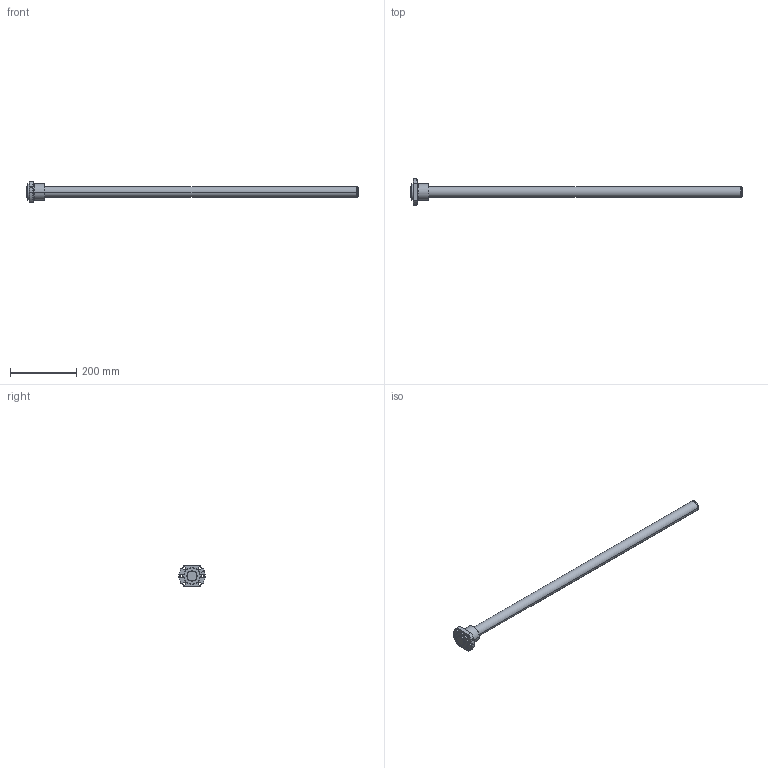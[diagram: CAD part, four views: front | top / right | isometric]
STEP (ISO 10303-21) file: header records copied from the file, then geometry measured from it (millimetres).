
FILE_DESCRIPTION( ( '' ), '1' );
FILE_NAME( 'C:/Users/v3-771-32344/Desktop/EBB STEP/EBB 3205-3 RRNone+1000L C7(938070)-ebb3.stp', '2015-08-27T13:37:50', ( '' ), ( '' ), ' ', ' ', ' ' );
FILE_SCHEMA( ( 'CONFIG_CONTROL_DESIGN' ) );
Length unit declared in the file: millimetre
Products named in the file (2): 1; 2
Bounding box: 1000 x 80 x 62 mm (x, y, z)
Volume: 887373.5 mm3; surface area: 126365.3 mm2
Topology: 2 solids, 2 shells, 67 faces, 155 edges, 99 vertices
Faces by surface type: cylinder 36, cone 18, plane 13
Entity records: 2167 total; most frequent: CARTESIAN_POINT 473, DIRECTION 366, ORIENTED_EDGE 310, AXIS2_PLACEMENT_3D 155, EDGE_CURVE 155, VERTEX_POINT 99, EDGE_LOOP 90, CIRCLE 86
